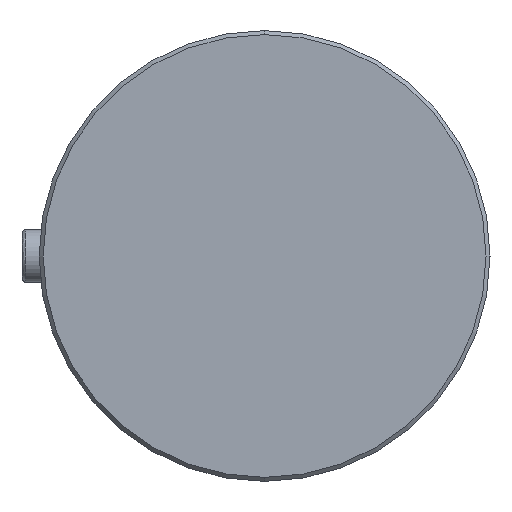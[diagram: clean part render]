
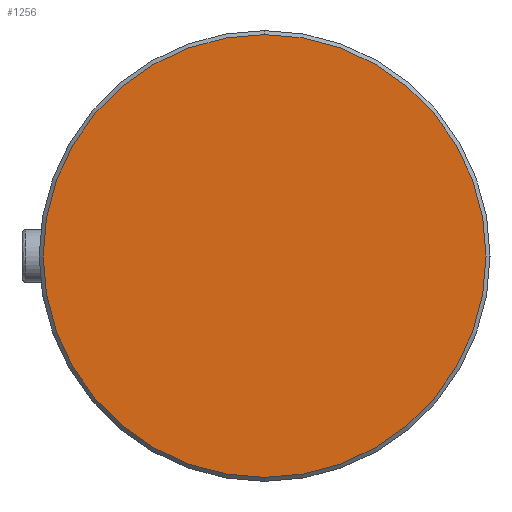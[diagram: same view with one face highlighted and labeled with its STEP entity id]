
A CAD part, left-side view. The second image highlights one B-rep face of the part: STEP entity #1256.
In plain terms, the highlighted planar face has unit normal (-1, 0, 0).
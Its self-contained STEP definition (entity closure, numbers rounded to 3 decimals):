
#244 = EDGE_LOOP ( 'NONE', ( #3575, #2500 ) ) ;
#260 = CARTESIAN_POINT ( 'NONE',  ( -139.2, -16.9, 16.9 ) ) ;
#321 = FACE_OUTER_BOUND ( 'NONE', #244, .T. ) ;
#530 = EDGE_CURVE ( 'NONE', #3217, #2270, #1103, .T. ) ;
#549 = DIRECTION ( 'NONE',  ( 0., 0., -1. ) ) ;
#809 = CIRCLE ( 'NONE', #2572, 16.7 ) ;
#1103 = CIRCLE ( 'NONE', #1155, 16.7 ) ;
#1155 = AXIS2_PLACEMENT_3D ( 'NONE', #2705, #3393, #1930 ) ;
#1256 = ADVANCED_FACE ( 'NONE', ( #321 ), #3847, .F. ) ;
#1466 = CARTESIAN_POINT ( 'NONE',  ( -139.2, 0., 16.7 ) ) ;
#1930 = DIRECTION ( 'NONE',  ( 0., 0., -1. ) ) ;
#2270 = VERTEX_POINT ( 'NONE', #1466 ) ;
#2500 = ORIENTED_EDGE ( 'NONE', *, *, #3455, .T. ) ;
#2572 = AXIS2_PLACEMENT_3D ( 'NONE', #3814, #2735, #549 ) ;
#2705 = CARTESIAN_POINT ( 'NONE',  ( -139.2, 0., 0. ) ) ;
#2735 = DIRECTION ( 'NONE',  ( -1., 0., 0. ) ) ;
#3160 = DIRECTION ( 'NONE',  ( 0., 0., -1. ) ) ;
#3217 = VERTEX_POINT ( 'NONE', #3269 ) ;
#3269 = CARTESIAN_POINT ( 'NONE',  ( -139.2, 0., -16.7 ) ) ;
#3393 = DIRECTION ( 'NONE',  ( -1., 0., 0. ) ) ;
#3455 = EDGE_CURVE ( 'NONE', #2270, #3217, #809, .T. ) ;
#3536 = AXIS2_PLACEMENT_3D ( 'NONE', #260, #4217, #3160 ) ;
#3575 = ORIENTED_EDGE ( 'NONE', *, *, #530, .T. ) ;
#3814 = CARTESIAN_POINT ( 'NONE',  ( -139.2, 0., 0. ) ) ;
#3847 = PLANE ( 'NONE',  #3536 ) ;
#4217 = DIRECTION ( 'NONE',  ( 1., 0., 0. ) ) ;
